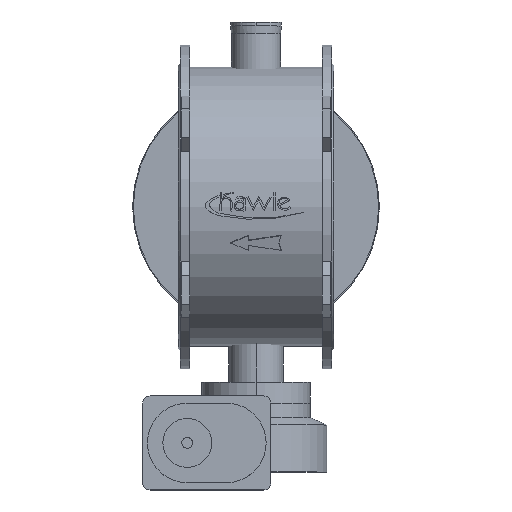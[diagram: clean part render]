
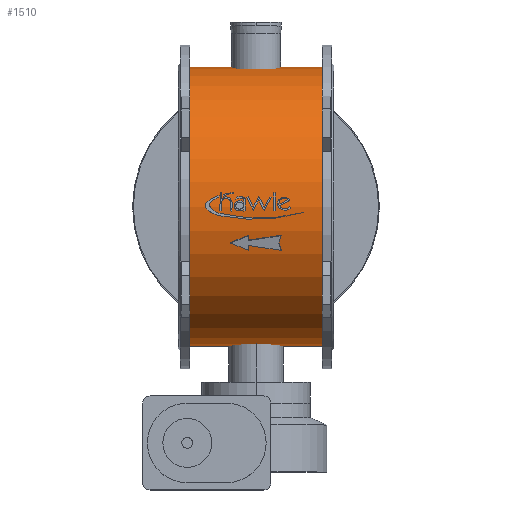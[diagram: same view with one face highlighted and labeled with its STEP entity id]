
A CAD part, top view. The second image highlights one B-rep face of the part: STEP entity #1510.
In plain terms, the highlighted cylindrical face has radius 386 mm (diameter 772 mm), a partial arc.
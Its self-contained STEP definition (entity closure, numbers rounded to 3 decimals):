
#1510=ADVANCED_FACE('',(#2996),#2997,.T.);
#2996=FACE_OUTER_BOUND('',#4802,.T.);
#2997=CYLINDRICAL_SURFACE('',#4803,386.0);
#4802=EDGE_LOOP('',(#7581,#7582,#7583,#7584));
#4803=AXIS2_PLACEMENT_3D('',#7585,#7586,#7587);
#7581=ORIENTED_EDGE('',*,*,#9444,.T.);
#7582=ORIENTED_EDGE('',*,*,#9948,.T.);
#7583=ORIENTED_EDGE('',*,*,#9446,.T.);
#7584=ORIENTED_EDGE('',*,*,#9842,.T.);
#7585=CARTESIAN_POINT('',(-397.5,0.,0.0));
#7586=DIRECTION('',(1.0,0.,0.0));
#7587=DIRECTION('',(0.,-1.0,0.0));
#9444=EDGE_CURVE('',#10989,#10990,#10991,.T.);
#9446=EDGE_CURVE('',#10994,#10992,#10995,.T.);
#9842=EDGE_CURVE('',#10992,#10989,#11668,.T.);
#9948=EDGE_CURVE('',#10990,#10994,#11842,.T.);
#10989=VERTEX_POINT('',#13214);
#10990=VERTEX_POINT('',#13215);
#10991=LINE('',#13216,#13217);
#10992=VERTEX_POINT('',#13218);
#10994=VERTEX_POINT('',#13220);
#10995=LINE('',#13221,#13222);
#11668=CIRCLE('',#14077,386.0);
#11842=CIRCLE('',#14296,386.0);
#13214=CARTESIAN_POINT('',(-397.5,-386.0,0.0));
#13215=CARTESIAN_POINT('',(-32.5,-386.0,0.0));
#13216=CARTESIAN_POINT('',(-397.5,-386.0,0.));
#13217=VECTOR('',#15951,1.0);
#13218=CARTESIAN_POINT('',(-397.5,386.0,0.));
#13220=CARTESIAN_POINT('',(-32.5,386.0,0.));
#13221=CARTESIAN_POINT('',(-397.5,386.0,0.));
#13222=VECTOR('',#15955,1.0);
#14077=AXIS2_PLACEMENT_3D('',#16522,#16523,#16524);
#14296=AXIS2_PLACEMENT_3D('',#16669,#16670,#16671);
#15951=DIRECTION('',(1.0,0.,0.0));
#15955=DIRECTION('',(-1.0,0.,-0.0));
#16522=CARTESIAN_POINT('',(-397.5,0.,0.0));
#16523=DIRECTION('',(1.0,0.,0.0));
#16524=DIRECTION('',(0.,-1.0,0.0));
#16669=CARTESIAN_POINT('',(-32.5,0.,0.0));
#16670=DIRECTION('',(-1.0,0.,0.0));
#16671=DIRECTION('',(0.,-1.0,0.0));
